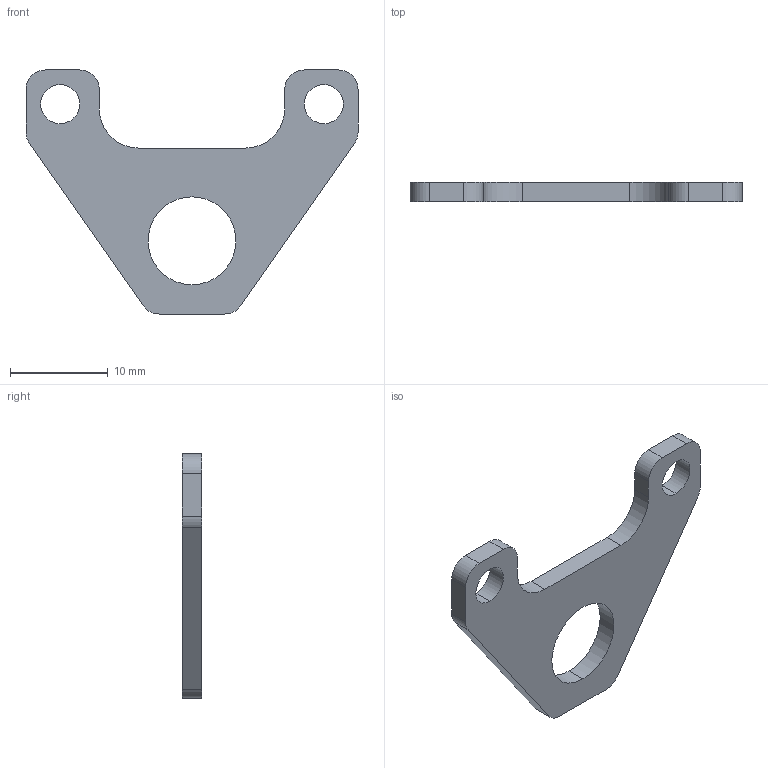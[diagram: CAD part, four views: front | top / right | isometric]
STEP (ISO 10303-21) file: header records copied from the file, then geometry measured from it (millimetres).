
FILE_DESCRIPTION (( 'STEP AP214' ), '1' );
FILE_NAME ('NTS206-B-Bracket.STEP', '2025-01-08T02:52:29', ( '' ), ( '' ), 'SwSTEP 2.0', 'SolidWorks 2022', '' );
FILE_SCHEMA (( 'AUTOMOTIVE_DESIGN' ));
Length unit declared in the file: millimetre
Products named in the file (1): NTS206-B-Bracket
Bounding box: 34 x 2 x 25 mm (x, y, z)
Volume: 770.8 mm3; surface area: 1096.6 mm2
Topology: 1 solids, 1 shells, 28 faces, 78 edges, 52 vertices
Faces by surface type: cylinder 16, plane 12
Entity records: 960 total; most frequent: DIRECTION 168, CARTESIAN_POINT 159, ORIENTED_EDGE 156, EDGE_CURVE 78, AXIS2_PLACEMENT_3D 61, VERTEX_POINT 52, VECTOR 46, LINE 46
